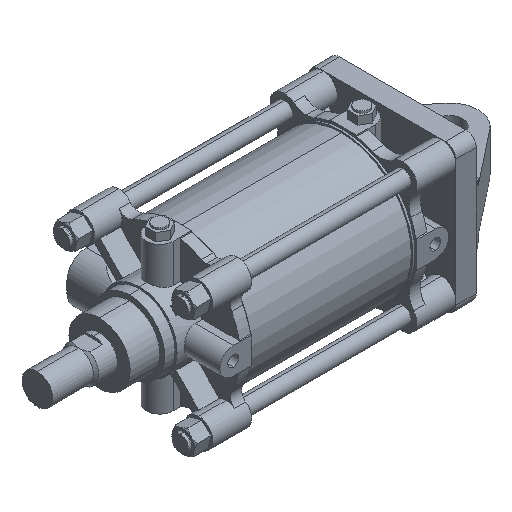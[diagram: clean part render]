
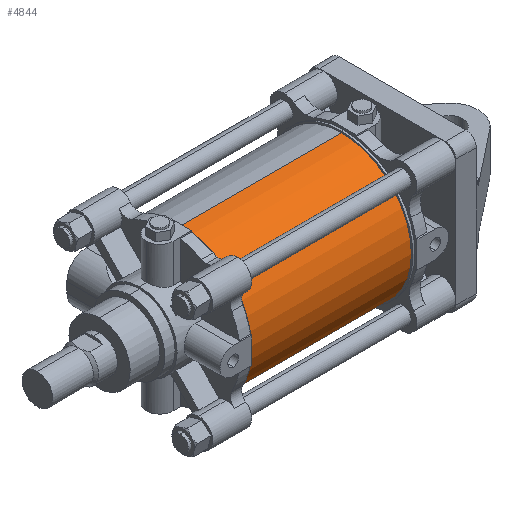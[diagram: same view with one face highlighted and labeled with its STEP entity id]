
A CAD part, isometric view. The second image highlights one B-rep face of the part: STEP entity #4844.
In plain terms, the highlighted cylindrical face has radius 68.5 mm (diameter 137 mm), a partial arc.
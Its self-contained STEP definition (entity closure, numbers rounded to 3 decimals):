
#420 = EDGE_CURVE ( 'NONE', #5989, #4962, #8322, .T. ) ;
#452 = CARTESIAN_POINT ( 'NONE',  ( 79., 0., -68.5 ) ) ;
#766 = EDGE_LOOP ( 'NONE', ( #8190, #4973, #7766, #9198 ) ) ;
#857 = DIRECTION ( 'NONE',  ( 1., 0., 0. ) ) ;
#971 = CARTESIAN_POINT ( 'NONE',  ( 79., 0., 68.5 ) ) ;
#1138 = EDGE_CURVE ( 'NONE', #5989, #4559, #4024, .T. ) ;
#1181 = FACE_OUTER_BOUND ( 'NONE', #766, .T. ) ;
#1503 = LINE ( 'NONE', #452, #8175 ) ;
#1548 = DIRECTION ( 'NONE',  ( 0., 0., -1. ) ) ;
#2031 = VECTOR ( 'NONE', #3692, 1000. ) ;
#2561 = AXIS2_PLACEMENT_3D ( 'NONE', #6026, #857, #9144 ) ;
#2670 = CARTESIAN_POINT ( 'NONE',  ( 79., 0., 68.5 ) ) ;
#3093 = CARTESIAN_POINT ( 'NONE',  ( 79., 0., 0. ) ) ;
#3422 = DIRECTION ( 'NONE',  ( 0., 0., 1. ) ) ;
#3596 = CARTESIAN_POINT ( 'NONE',  ( 79., 0., 0. ) ) ;
#3610 = CARTESIAN_POINT ( 'NONE',  ( 79., 0., -68.5 ) ) ;
#3692 = DIRECTION ( 'NONE',  ( -1., 0., 0. ) ) ;
#3940 = DIRECTION ( 'NONE',  ( 1., 0., 0. ) ) ;
#4024 = LINE ( 'NONE', #2670, #2031 ) ;
#4391 = EDGE_CURVE ( 'NONE', #4962, #6644, #1503, .T. ) ;
#4399 = DIRECTION ( 'NONE',  ( -1., 0., 0. ) ) ;
#4452 = CIRCLE ( 'NONE', #2561, 68.5 ) ;
#4559 = VERTEX_POINT ( 'NONE', #5117 ) ;
#4794 = CYLINDRICAL_SURFACE ( 'NONE', #7324, 68.5 ) ;
#4844 = ADVANCED_FACE ( 'NONE', ( #1181 ), #4794, .T. ) ;
#4959 = EDGE_CURVE ( 'NONE', #4559, #6644, #4452, .T. ) ;
#4962 = VERTEX_POINT ( 'NONE', #3610 ) ;
#4973 = ORIENTED_EDGE ( 'NONE', *, *, #420, .F. ) ;
#5117 = CARTESIAN_POINT ( 'NONE',  ( -79., 0., 68.5 ) ) ;
#5989 = VERTEX_POINT ( 'NONE', #971 ) ;
#6026 = CARTESIAN_POINT ( 'NONE',  ( -79., 0., 0. ) ) ;
#6410 = AXIS2_PLACEMENT_3D ( 'NONE', #3093, #3940, #1548 ) ;
#6472 = CARTESIAN_POINT ( 'NONE',  ( -79., 0., -68.5 ) ) ;
#6644 = VERTEX_POINT ( 'NONE', #6472 ) ;
#7324 = AXIS2_PLACEMENT_3D ( 'NONE', #3596, #8791, #3422 ) ;
#7766 = ORIENTED_EDGE ( 'NONE', *, *, #1138, .T. ) ;
#8175 = VECTOR ( 'NONE', #4399, 1000. ) ;
#8190 = ORIENTED_EDGE ( 'NONE', *, *, #4391, .F. ) ;
#8322 = CIRCLE ( 'NONE', #6410, 68.5 ) ;
#8791 = DIRECTION ( 'NONE',  ( -1., 0., 0. ) ) ;
#9144 = DIRECTION ( 'NONE',  ( 0., 0., -1. ) ) ;
#9198 = ORIENTED_EDGE ( 'NONE', *, *, #4959, .T. ) ;
